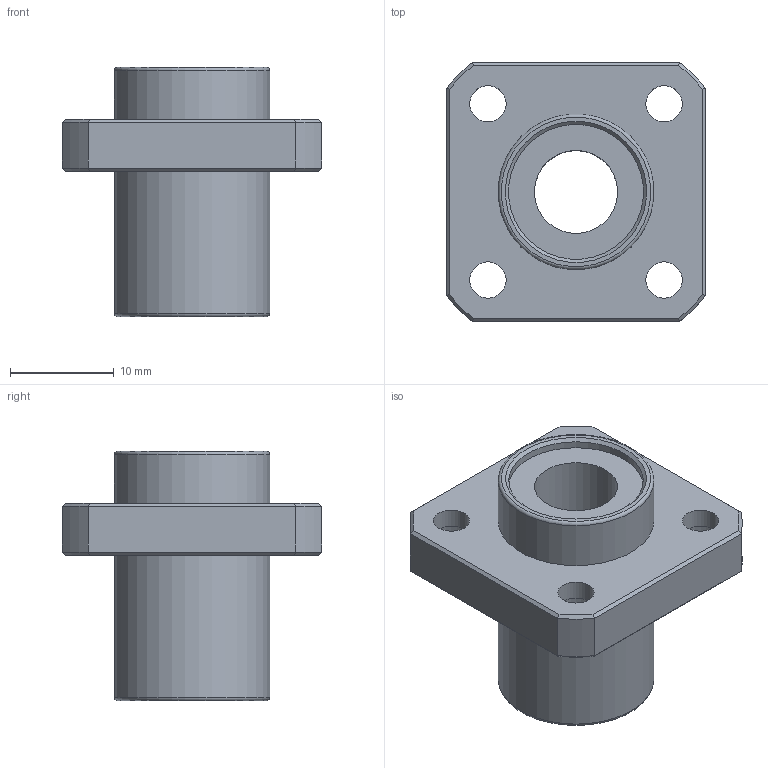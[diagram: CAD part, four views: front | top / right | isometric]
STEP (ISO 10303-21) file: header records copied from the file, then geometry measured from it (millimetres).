
FILE_DESCRIPTION(/* description */ (''),/* implementation_level */ '2;1');
FILE_NAME(/* name */ 'LMKP8UU',/* time_stamp */ '2019-07-10T08:52:30+02:00',/* author */ ('VĂ©gh MĂˇtĂ©'),/* organization */ ('Bearing Kft'),/* preprocessor_version */ 'ST-DEVELOPER v16.7',/* originating_system */ 'DEX',/* authorisation */ $);
FILE_SCHEMA (('AUTOMOTIVE_DESIGN {1 0 10303 214 3 1 1}'));
Length unit declared in the file: millimetre
Products named in the file (1): LMKP8UU
Bounding box: 25 x 25 x 24 mm (x, y, z)
Volume: 4614.5 mm3; surface area: 3317.8 mm2
Topology: 1 solids, 1 shells, 358 faces, 884 edges, 584 vertices
Faces by surface type: plane 262, bspline 65, cylinder 19, cone 10, torus 2
Full cylindrical faces by diameter (mm): 3.5 x4, 6 x4, 8 x1, 13 x2, 15 x2
Entity records: 13000 total; most frequent: CARTESIAN_POINT 4982, ORIENTED_EDGE 1720, DIRECTION 1352, EDGE_CURVE 860, LINE 664, VECTOR 664, VERTEX_POINT 580, EDGE_LOOP 444
